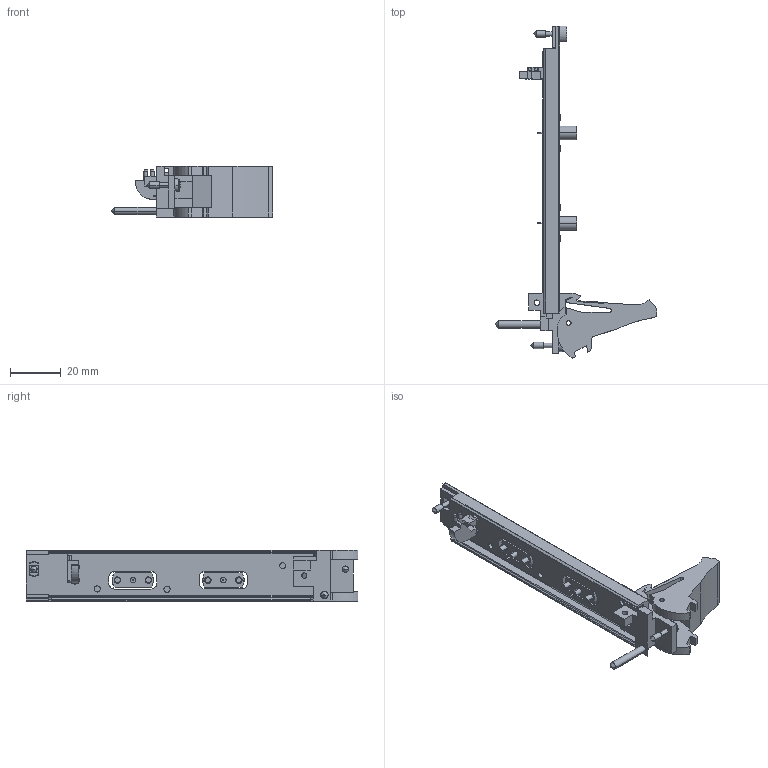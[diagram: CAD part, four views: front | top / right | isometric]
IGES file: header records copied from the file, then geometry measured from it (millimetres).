
Start section:  PTC IGES file: cu_pxi-565x.igs
Global section: file name: cu_pxi-565x.igs; native system: Pro/ENGINEER by Parametric Technology Corporation; preprocessor: 2006080; author: jjorden; organization: Unknown; date: 091231.101512; units: inch
Bounding box: 63.53 x 130.5 x 20.31 mm (x, y, z)
Surface area: 16753.2 mm2 (no closed solid volume)
Topology: 0 solids, 0 shells, 640 faces, 3244 edges, 3156 vertices
Faces by surface type: bspline 437, revolution 203
